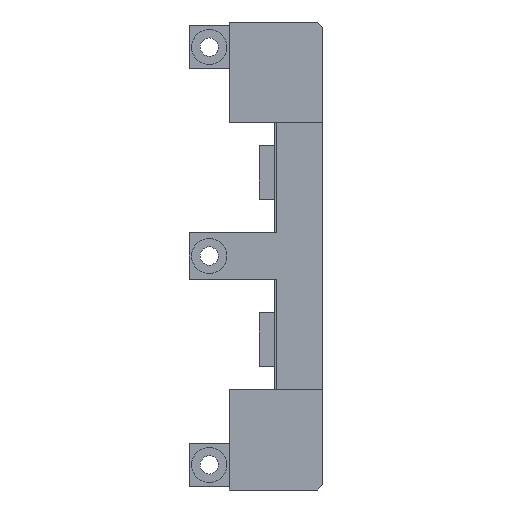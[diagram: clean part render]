
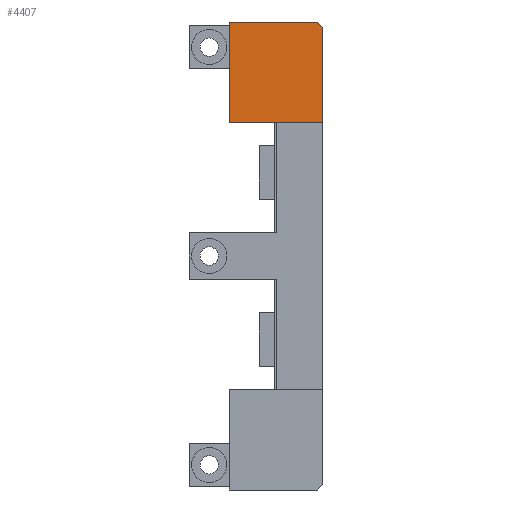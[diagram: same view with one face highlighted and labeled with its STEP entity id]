
A CAD part, front view. The second image highlights one B-rep face of the part: STEP entity #4407.
In plain terms, the highlighted planar face has unit normal (0, -1, 0).
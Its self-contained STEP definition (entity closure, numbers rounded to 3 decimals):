
#44 = PLANE('',#45);
#45 = AXIS2_PLACEMENT_3D('',#46,#47,#48);
#46 = CARTESIAN_POINT('',(112.,-18.,126.));
#47 = DIRECTION('',(1.,0.,0.));
#48 = DIRECTION('',(0.,0.,1.));
#72 = PLANE('',#73);
#73 = AXIS2_PLACEMENT_3D('',#74,#75,#76);
#74 = CARTESIAN_POINT('',(137.6,-15.,140.));
#75 = DIRECTION('',(0.,0.,1.));
#76 = DIRECTION('',(1.,0.,0.));
#99 = PLANE('',#100);
#100 = AXIS2_PLACEMENT_3D('',#101,#102,#103);
#101 = CARTESIAN_POINT('',(137.5,-19.,141.));
#102 = DIRECTION('',(-0.707,-0.,-0.707));
#103 = DIRECTION('',(0.707,0.,-0.707));
#126 = PLANE('',#127);
#127 = AXIS2_PLACEMENT_3D('',#128,#129,#130);
#128 = CARTESIAN_POINT('',(140.,-15.,0.));
#129 = DIRECTION('',(1.,0.,0.));
#130 = DIRECTION('',(0.,0.,1.));
#1071 = VERTEX_POINT('',#1072);
#1072 = CARTESIAN_POINT('',(112.,-18.,140.));
#1093 = EDGE_CURVE('',#1094,#1071,#1096,.T.);
#1094 = VERTEX_POINT('',#1095);
#1095 = CARTESIAN_POINT('',(112.,-18.,110.));
#1096 = SURFACE_CURVE('',#1097,(#1101,#1108),.PCURVE_S1.);
#1097 = LINE('',#1098,#1099);
#1098 = CARTESIAN_POINT('',(112.,-18.,110.));
#1099 = VECTOR('',#1100,1.);
#1100 = DIRECTION('',(0.,0.,1.));
#1101 = PCURVE('',#44,#1102);
#1102 = DEFINITIONAL_REPRESENTATION('',(#1103),#1107);
#1103 = LINE('',#1104,#1105);
#1104 = CARTESIAN_POINT('',(-16.,0.));
#1105 = VECTOR('',#1106,1.);
#1106 = DIRECTION('',(1.,0.));
#1107 = ( GEOMETRIC_REPRESENTATION_CONTEXT(2) 
PARAMETRIC_REPRESENTATION_CONTEXT() REPRESENTATION_CONTEXT('2D SPACE',''
  ) );
#1108 = PCURVE('',#1109,#1114);
#1109 = PLANE('',#1110);
#1110 = AXIS2_PLACEMENT_3D('',#1111,#1112,#1113);
#1111 = CARTESIAN_POINT('',(112.,-18.,126.));
#1112 = DIRECTION('',(0.,1.,0.));
#1113 = DIRECTION('',(0.,0.,1.));
#1114 = DEFINITIONAL_REPRESENTATION('',(#1115),#1119);
#1115 = LINE('',#1116,#1117);
#1116 = CARTESIAN_POINT('',(-16.,0.));
#1117 = VECTOR('',#1118,1.);
#1118 = DIRECTION('',(1.,0.));
#1119 = ( GEOMETRIC_REPRESENTATION_CONTEXT(2) 
PARAMETRIC_REPRESENTATION_CONTEXT() REPRESENTATION_CONTEXT('2D SPACE',''
  ) );
#1137 = PLANE('',#1138);
#1138 = AXIS2_PLACEMENT_3D('',#1139,#1140,#1141);
#1139 = CARTESIAN_POINT('',(112.,-18.,110.));
#1140 = DIRECTION('',(0.,0.,1.));
#1141 = DIRECTION('',(1.,0.,0.));
#1310 = EDGE_CURVE('',#1071,#1311,#1313,.T.);
#1311 = VERTEX_POINT('',#1312);
#1312 = CARTESIAN_POINT('',(138.5,-18.,140.));
#1313 = SURFACE_CURVE('',#1314,(#1318,#1325),.PCURVE_S1.);
#1314 = LINE('',#1315,#1316);
#1315 = CARTESIAN_POINT('',(112.,-18.,140.));
#1316 = VECTOR('',#1317,1.);
#1317 = DIRECTION('',(1.,0.,0.));
#1318 = PCURVE('',#72,#1319);
#1319 = DEFINITIONAL_REPRESENTATION('',(#1320),#1324);
#1320 = LINE('',#1321,#1322);
#1321 = CARTESIAN_POINT('',(-25.6,-3.));
#1322 = VECTOR('',#1323,1.);
#1323 = DIRECTION('',(1.,0.));
#1324 = ( GEOMETRIC_REPRESENTATION_CONTEXT(2) 
PARAMETRIC_REPRESENTATION_CONTEXT() REPRESENTATION_CONTEXT('2D SPACE',''
  ) );
#1325 = PCURVE('',#1109,#1326);
#1326 = DEFINITIONAL_REPRESENTATION('',(#1327),#1331);
#1327 = LINE('',#1328,#1329);
#1328 = CARTESIAN_POINT('',(14.,0.));
#1329 = VECTOR('',#1330,1.);
#1330 = DIRECTION('',(0.,1.));
#1331 = ( GEOMETRIC_REPRESENTATION_CONTEXT(2) 
PARAMETRIC_REPRESENTATION_CONTEXT() REPRESENTATION_CONTEXT('2D SPACE',''
  ) );
#1774 = VERTEX_POINT('',#1775);
#1775 = CARTESIAN_POINT('',(140.,-18.,138.5));
#1794 = EDGE_CURVE('',#1774,#1311,#1795,.T.);
#1795 = SURFACE_CURVE('',#1796,(#1800,#1806),.PCURVE_S1.);
#1796 = LINE('',#1797,#1798);
#1797 = CARTESIAN_POINT('',(134.875,-18.,143.625));
#1798 = VECTOR('',#1799,1.);
#1799 = DIRECTION('',(-0.707,0.,0.707));
#1800 = PCURVE('',#99,#1801);
#1801 = DEFINITIONAL_REPRESENTATION('',(#1802),#1805);
#1802 = B_SPLINE_CURVE_WITH_KNOTS('',1,(#1803,#1804),.UNSPECIFIED.,.F.,
  .F.,(2,2),(-7.248,-5.127),.PIECEWISE_BEZIER_KNOTS.);
#1803 = CARTESIAN_POINT('',(3.536,-1.));
#1804 = CARTESIAN_POINT('',(1.414,-1.));
#1805 = ( GEOMETRIC_REPRESENTATION_CONTEXT(2) 
PARAMETRIC_REPRESENTATION_CONTEXT() REPRESENTATION_CONTEXT('2D SPACE',''
  ) );
#1806 = PCURVE('',#1109,#1807);
#1807 = DEFINITIONAL_REPRESENTATION('',(#1808),#1811);
#1808 = B_SPLINE_CURVE_WITH_KNOTS('',1,(#1809,#1810),.UNSPECIFIED.,.F.,
  .F.,(2,2),(-7.248,-5.127),.PIECEWISE_BEZIER_KNOTS.);
#1809 = CARTESIAN_POINT('',(12.5,28.));
#1810 = CARTESIAN_POINT('',(14.,26.5));
#1811 = ( GEOMETRIC_REPRESENTATION_CONTEXT(2) 
PARAMETRIC_REPRESENTATION_CONTEXT() REPRESENTATION_CONTEXT('2D SPACE',''
  ) );
#1868 = EDGE_CURVE('',#1774,#1869,#1871,.T.);
#1869 = VERTEX_POINT('',#1870);
#1870 = CARTESIAN_POINT('',(140.,-18.,110.));
#1871 = SURFACE_CURVE('',#1872,(#1876,#1883),.PCURVE_S1.);
#1872 = LINE('',#1873,#1874);
#1873 = CARTESIAN_POINT('',(140.,-18.,140.));
#1874 = VECTOR('',#1875,1.);
#1875 = DIRECTION('',(0.,0.,-1.));
#1876 = PCURVE('',#126,#1877);
#1877 = DEFINITIONAL_REPRESENTATION('',(#1878),#1882);
#1878 = LINE('',#1879,#1880);
#1879 = CARTESIAN_POINT('',(140.,3.));
#1880 = VECTOR('',#1881,1.);
#1881 = DIRECTION('',(-1.,0.));
#1882 = ( GEOMETRIC_REPRESENTATION_CONTEXT(2) 
PARAMETRIC_REPRESENTATION_CONTEXT() REPRESENTATION_CONTEXT('2D SPACE',''
  ) );
#1883 = PCURVE('',#1109,#1884);
#1884 = DEFINITIONAL_REPRESENTATION('',(#1885),#1889);
#1885 = LINE('',#1886,#1887);
#1886 = CARTESIAN_POINT('',(14.,28.));
#1887 = VECTOR('',#1888,1.);
#1888 = DIRECTION('',(-1.,0.));
#1889 = ( GEOMETRIC_REPRESENTATION_CONTEXT(2) 
PARAMETRIC_REPRESENTATION_CONTEXT() REPRESENTATION_CONTEXT('2D SPACE',''
  ) );
#4407 = ADVANCED_FACE('',(#4408),#1109,.F.);
#4408 = FACE_BOUND('',#4409,.F.);
#4409 = EDGE_LOOP('',(#4410,#4411,#4412,#4433,#4434));
#4410 = ORIENTED_EDGE('',*,*,#1794,.F.);
#4411 = ORIENTED_EDGE('',*,*,#1868,.T.);
#4412 = ORIENTED_EDGE('',*,*,#4413,.F.);
#4413 = EDGE_CURVE('',#1094,#1869,#4414,.T.);
#4414 = SURFACE_CURVE('',#4415,(#4419,#4426),.PCURVE_S1.);
#4415 = LINE('',#4416,#4417);
#4416 = CARTESIAN_POINT('',(112.,-18.,110.));
#4417 = VECTOR('',#4418,1.);
#4418 = DIRECTION('',(1.,0.,0.));
#4419 = PCURVE('',#1109,#4420);
#4420 = DEFINITIONAL_REPRESENTATION('',(#4421),#4425);
#4421 = LINE('',#4422,#4423);
#4422 = CARTESIAN_POINT('',(-16.,0.));
#4423 = VECTOR('',#4424,1.);
#4424 = DIRECTION('',(0.,1.));
#4425 = ( GEOMETRIC_REPRESENTATION_CONTEXT(2) 
PARAMETRIC_REPRESENTATION_CONTEXT() REPRESENTATION_CONTEXT('2D SPACE',''
  ) );
#4426 = PCURVE('',#1137,#4427);
#4427 = DEFINITIONAL_REPRESENTATION('',(#4428),#4432);
#4428 = LINE('',#4429,#4430);
#4429 = CARTESIAN_POINT('',(0.,0.));
#4430 = VECTOR('',#4431,1.);
#4431 = DIRECTION('',(1.,0.));
#4432 = ( GEOMETRIC_REPRESENTATION_CONTEXT(2) 
PARAMETRIC_REPRESENTATION_CONTEXT() REPRESENTATION_CONTEXT('2D SPACE',''
  ) );
#4433 = ORIENTED_EDGE('',*,*,#1093,.T.);
#4434 = ORIENTED_EDGE('',*,*,#1310,.T.);
